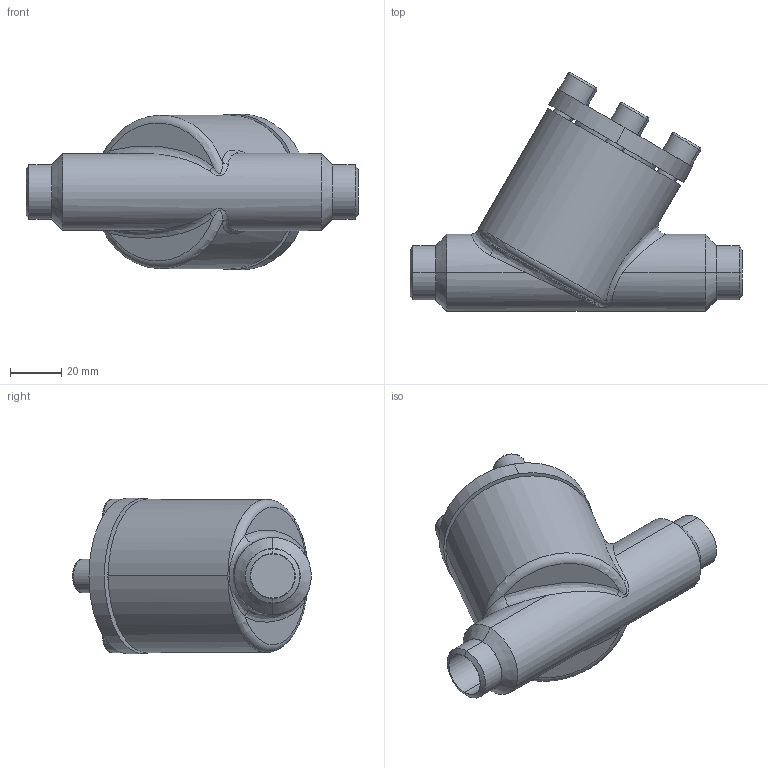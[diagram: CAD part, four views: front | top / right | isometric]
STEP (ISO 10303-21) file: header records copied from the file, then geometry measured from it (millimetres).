
FILE_DESCRIPTION (( 'STEP AP214' ), '1' );
FILE_NAME ('SS52300D10-DN015_R1_PS40.STEP', '2006-05-02T05:42:39', ( 'Herr Grams' ), ( 'AWP GmbH' ), 'SwSTEP 2.0', 'SolidWorks 2002296', '' );
FILE_SCHEMA (( 'AUTOMOTIVE_DESIGN' ));
Length unit declared in the file: millimetre
Products named in the file (5): SS52300D10-DN015_R1_PS40; Gehäuse16300-DN015_Standard; SS52300K10_Deck+Schr-DN10-20_Standard; Deckel52300K10-DN10-20_Standard; Zylinderschraube-DIN912_M 8x 16
Assembly tree (7 placements, depth 3):
  SS52300D10-DN015_R1_PS40
    SS52300K10_Deck+Schr-DN10-20_Standard
      Zylinderschraube-DIN912_M 8x 16  x4
      Deckel52300K10-DN10-20_Standard
    Gehäuse16300-DN015_Standard
Bounding box: 130 x 93.46 x 61 mm (x, y, z)
Volume: 217303.4 mm3; surface area: 42775.1 mm2
Topology: 6 solids, 6 shells, 134 faces, 287 edges, 181 vertices
Faces by surface type: plane 55, cylinder 47, cone 16, torus 10, bspline 6
Entity records: 15327 total; most frequent: CARTESIAN_POINT 13069, DIRECTION 416, ORIENTED_EDGE 346, AXIS2_PLACEMENT_3D 176, EDGE_CURVE 173, VERTEX_POINT 109, EDGE_LOOP 98, CIRCLE 91
